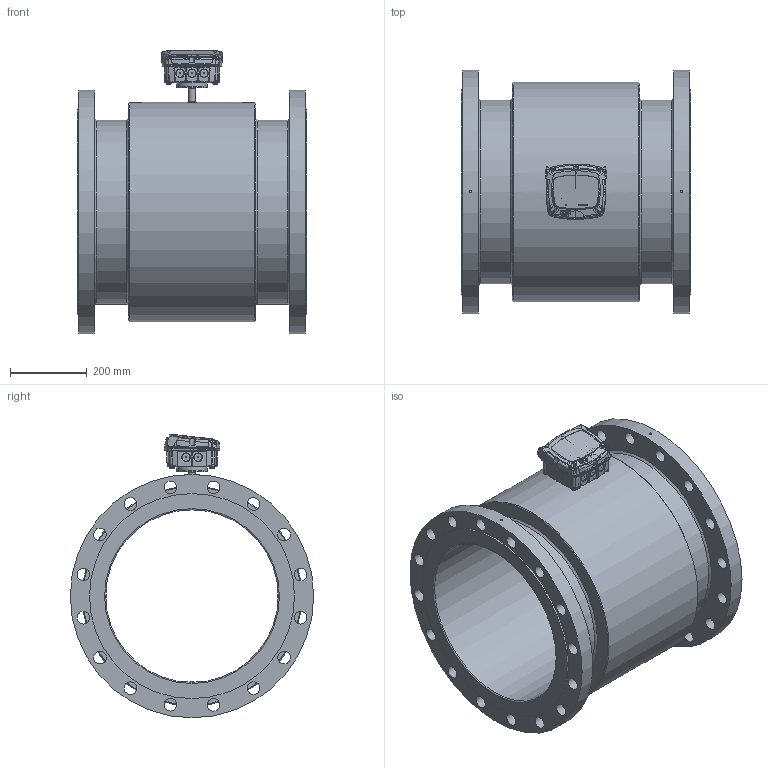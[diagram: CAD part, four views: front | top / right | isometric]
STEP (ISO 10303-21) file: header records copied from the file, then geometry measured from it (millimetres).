
FILE_DESCRIPTION((''),'2;1');
FILE_NAME('C:\Users\Claus\Dropbox\Projects 2011 - 2012\MJK Automation AS\DN 450 - ANSI B16,5.stp','2014-10-24T15:12:26',('Claus'),(''),'Autodesk Inventor 2013','Autodesk Inventor 2013','');
FILE_SCHEMA(('AUTOMOTIVE_DESIGN { 1 0 10303 214 1 1 1 1 }'));
Length unit declared in the file: millimetre
Products named in the file (7): DN 450 - ANSI B16,5; FC_MagFlux_assembly_r1; CH Bund ml; FC Top rev 06.04; CH 03.02; Electrode group DN15 - DN32
Assembly tree (8 placements, depth 3):
  DN 450 - ANSI B16,5
    DN 450 - ANSI B16,5
    FC_MagFlux_assembly_r1
      CH Bund ml
      FC Top rev 06.04
      CH 03.02
    Electrode group DN15 - DN32  x3
Bounding box: 600 x 635 x 739.84 mm (x, y, z)
Volume: 49024601.4 mm3; surface area: 2934337.3 mm2
Topology: 10 solids, 10 shells, 2951 faces, 8042 edges, 5235 vertices
Faces by surface type: bspline 1752, plane 810, cylinder 226, cone 123, torus 25, revolution 9, sphere 6
Full cylindrical faces by diameter (mm): 2.5 x3, 3 x6, 4 x1, 6 x2, 6.5 x4, 7.042 x4, 8 x3, 8.048 x4, 12.072 x4, 15 x1, 18 x1, 18.108 x1, 33 x32, 64 x1, 450 x1, 480 x2, 535 x2, 572 x1, 635 x2
Entity records: 234610 total; most frequent: CARTESIAN_POINT 171650, ORIENTED_EDGE 15560, DIRECTION 7853, EDGE_CURVE 7780, VERTEX_POINT 5173, EDGE_LOOP 3337, VECTOR 3112, LINE 3112
